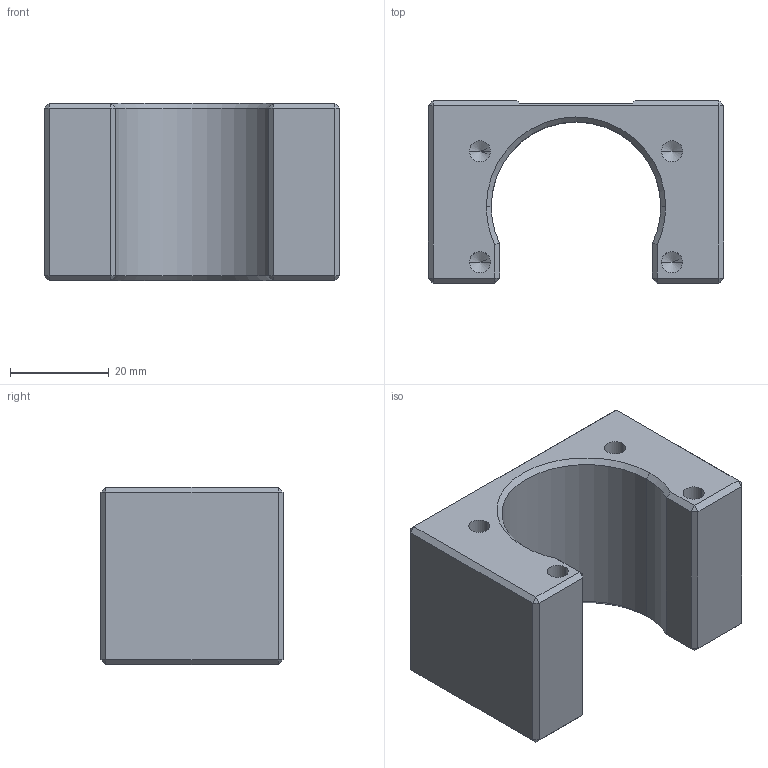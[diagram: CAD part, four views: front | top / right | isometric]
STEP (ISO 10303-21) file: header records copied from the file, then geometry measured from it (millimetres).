
FILE_DESCRIPTION (( 'STEP AP203' ), '1' );
FILE_NAME ('MC 1408.STEP', '2008-06-09T03:09:22', ( '' ), ( '' ), 'SwSTEP 2.0', 'SolidWorks 2008', '' );
FILE_SCHEMA (( 'CONFIG_CONTROL_DESIGN' ));
Length unit declared in the file: millimetre
Products named in the file (1): MC 1408
Bounding box: 60 x 37 x 36 mm (x, y, z)
Volume: 42475.5 mm3; surface area: 12733.8 mm2
Topology: 1 solids, 1 shells, 86 faces, 192 edges, 100 vertices
Faces by surface type: plane 45, cone 22, cylinder 19
Entity records: 2269 total; most frequent: DIRECTION 390, CARTESIAN_POINT 375, ORIENTED_EDGE 352, EDGE_CURVE 176, AXIS2_PLACEMENT_3D 131, LINE 128, VECTOR 128, VERTEX_POINT 100
